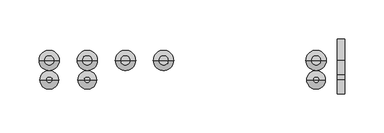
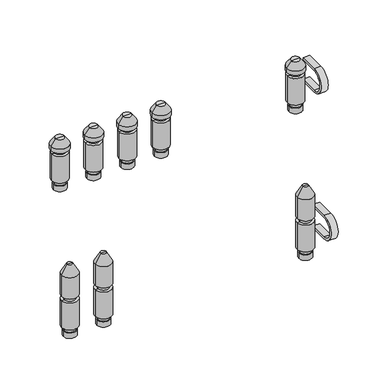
"""IFC4 building model written with IfcOpenShell, lengths in millimetres: valve geometry, PL AT_Manifold_FT-EV : 08 circuits."""

from ifc_helpers import new_model, si_unit, point, frame, frame_2d, origin, origin_2d, place, context, project, spatial, polyline, circle_curve, trimmed, segment, composite_curve, outline, extrude, source, transform, mapped, element, save
from ifc_brep_helpers import plane_surface, cylinder_surface, revolved_surface, advanced_brep


def valve_4e4a3ad7(model_context):
    return source(origin(), model_context, "Body", "SolidModel", [
        advanced_brep(
        [(179.0714286, 25.0, 174.88733), (198.0714286, 25.0, 174.88733), (188.5714286, 25.0, 174.88733), (179.0714286, 25.0, 182.9630354), (198.0714286, 25.0, 182.9630354), (180.5714286, 25.0, 182.9630354), (196.5714286, 25.0, 182.9630354), (180.5714286, 25.0, 189.669747), (196.5714286, 25.0, 189.669747), (176.5714286, 25.0, 189.669747), (200.5714286, 25.0, 189.669747), (176.5714286, 25.0, 230.330253), (200.5714286, 25.0, 230.330253), (180.5714286, 25.0, 230.330253), (196.5714286, 25.0, 230.330253), (180.5714286, 25.0, 236.0474786), (196.5714286, 25.0, 236.0474786), (175.5714286, 25.0, 236.0474786), (201.5714286, 25.0, 236.0474786), (175.5714286, 25.0, 242.337955), (201.5714286, 25.0, 242.337955), (182.2266064, 25.0, 251.842534), (194.9162507, 25.0, 251.842534), (188.5714286, 25.0, 251.842534)],
        [
            (0, 1, circle_curve(frame((188.5714286, 25.0, 174.88733), z_axis=(0.0, 0.0, -1.0), x_axis=(1.0, 0.0, 0.0)), 9.5)),
            (1, 2),
            (2, 0),
            (1, 0, circle_curve(frame((188.5714286, 25.0, 174.88733), z_axis=(0.0, 0.0, -1.0), x_axis=(1.0, 0.0, 0.0)), 9.5)),
            (3, 4, circle_curve(frame((188.5714286, 25.0, 182.9630354), z_axis=(0.0, 0.0, -1.0), x_axis=(1.0, 0.0, 0.0)), 9.5)),
            (4, 1),
            (0, 3),
            (4, 3, circle_curve(frame((188.5714286, 25.0, 182.9630354), z_axis=(0.0, 0.0, -1.0), x_axis=(1.0, 0.0, 0.0)), 9.5)),
            (5, 6, circle_curve(frame((188.5714286, 25.0, 182.9630354), z_axis=(0.0, 0.0, -1.0), x_axis=(1.0, 0.0, 0.0)), 8.0)),
            (6, 4),
            (3, 5),
            (6, 5, circle_curve(frame((188.5714286, 25.0, 182.9630354), z_axis=(0.0, 0.0, -1.0), x_axis=(1.0, 0.0, 0.0)), 8.0)),
            (7, 8, circle_curve(frame((188.5714286, 25.0, 189.669747), z_axis=(0.0, 0.0, -1.0), x_axis=(1.0, 0.0, 0.0)), 8.0)),
            (8, 6),
            (5, 7),
            (8, 7, circle_curve(frame((188.5714286, 25.0, 189.669747), z_axis=(0.0, 0.0, -1.0), x_axis=(1.0, 0.0, 0.0)), 8.0)),
            (9, 10, circle_curve(frame((188.5714286, 25.0, 189.669747), z_axis=(0.0, 0.0, -1.0), x_axis=(1.0, 0.0, 0.0)), 12.0)),
            (10, 8),
            (7, 9),
            (10, 9, circle_curve(frame((188.5714286, 25.0, 189.669747), z_axis=(0.0, 0.0, -1.0), x_axis=(1.0, 0.0, 0.0)), 12.0)),
            (11, 12, circle_curve(frame((188.5714286, 25.0, 230.330253), z_axis=(0.0, 0.0, -1.0), x_axis=(1.0, 0.0, 0.0)), 12.0)),
            (12, 10),
            (9, 11),
            (12, 11, circle_curve(frame((188.5714286, 25.0, 230.330253), z_axis=(0.0, 0.0, -1.0), x_axis=(1.0, 0.0, 0.0)), 12.0)),
            (13, 14, circle_curve(frame((188.5714286, 25.0, 230.330253), z_axis=(0.0, 0.0, -1.0), x_axis=(1.0, 0.0, 0.0)), 8.0)),
            (14, 12),
            (11, 13),
            (14, 13, circle_curve(frame((188.5714286, 25.0, 230.330253), z_axis=(0.0, 0.0, -1.0), x_axis=(1.0, 0.0, 0.0)), 8.0)),
            (15, 16, circle_curve(frame((188.5714286, 25.0, 236.0474786), z_axis=(0.0, 0.0, -1.0), x_axis=(1.0, 0.0, 0.0)), 8.0)),
            (16, 14),
            (13, 15),
            (16, 15, circle_curve(frame((188.5714286, 25.0, 236.0474786), z_axis=(0.0, 0.0, -1.0), x_axis=(1.0, 0.0, 0.0)), 8.0)),
            (17, 18, circle_curve(frame((188.5714286, 25.0, 236.0474786), z_axis=(0.0, 0.0, -1.0), x_axis=(1.0, 0.0, 0.0)), 13.0)),
            (18, 16),
            (15, 17),
            (18, 17, circle_curve(frame((188.5714286, 25.0, 236.0474786), z_axis=(0.0, 0.0, -1.0), x_axis=(1.0, 0.0, 0.0)), 13.0)),
            (19, 20, circle_curve(frame((188.5714286, 25.0, 242.337955), z_axis=(0.0, 0.0, -1.0), x_axis=(1.0, 0.0, 0.0)), 13.0)),
            (20, 18),
            (17, 19),
            (20, 19, circle_curve(frame((188.5714286, 25.0, 242.337955), z_axis=(0.0, 0.0, -1.0), x_axis=(1.0, 0.0, 0.0)), 13.0)),
            (21, 22, circle_curve(frame((188.5714286, 25.0, 251.842534), z_axis=(0.0, 0.0, -1.0), x_axis=(1.0, 0.0, 0.0)), 6.3448221)),
            (22, 20),
            (19, 21),
            (22, 21, circle_curve(frame((188.5714286, 25.0, 251.842534), z_axis=(0.0, 0.0, -1.0), x_axis=(1.0, 0.0, 0.0)), 6.3448221)),
            (23, 22),
            (21, 23),
        ],
        [
            plane_surface(frame((188.5714286, 25.0, 174.88733), z_axis=(0.0, 0.0, -1.0), x_axis=(1.0, 0.0, 0.0))),
            cylinder_surface(frame((188.5714286, 25.0, 247.7026565), z_axis=(0.0, 0.0, 1.0), x_axis=(1.0, 0.0, 0.0)), 9.5),
            plane_surface(frame((188.5714286, 25.0, 182.9630354), z_axis=(0.0, 0.0, 1.0), x_axis=(1.0, 0.0, 0.0))),
            cylinder_surface(frame((188.5714286, 25.0, 247.7026565), z_axis=(0.0, 0.0, 1.0), x_axis=(1.0, 0.0, 0.0)), 8.0),
            plane_surface(frame((188.5714286, 25.0, 189.669747), z_axis=(0.0, 0.0, -1.0), x_axis=(1.0, 0.0, 0.0))),
            cylinder_surface(frame((188.5714286, 25.0, 247.7026565), z_axis=(0.0, 0.0, 1.0), x_axis=(1.0, 0.0, 0.0)), 12.0),
            plane_surface(frame((188.5714286, 25.0, 230.330253), z_axis=(0.0, 0.0, 1.0), x_axis=(1.0, 0.0, 0.0))),
            plane_surface(frame((188.5714286, 25.0, 236.0474786), z_axis=(0.0, 0.0, -1.0), x_axis=(1.0, 0.0, 0.0))),
            cylinder_surface(frame((188.5714286, 25.0, 247.7026565), z_axis=(0.0, 0.0, 1.0), x_axis=(1.0, 0.0, 0.0)), 13.0),
            revolved_surface(polyline([(201.5714286, 25.0, 242.337955), (194.9162507, 25.0, 251.842534)]), (188.5714286, 25.0, 247.7026565), (0.0, 0.0, 1.0)),
            plane_surface(frame((188.5714286, 25.0, 251.842534), z_axis=(0.0, 0.0, 1.0), x_axis=(1.0, 0.0, 0.0))),
        ],
        [
            (0, [[1, 2, 3]]),
            (0, [[4, -3, -2]]),
            (1, [[5, 6, -1, 7]]),
            (1, [[8, -7, -4, -6]]),
            (2, [[9, 10, -5, 11]]),
            (2, [[12, -11, -8, -10]]),
            (3, [[13, 14, -9, 15]]),
            (3, [[16, -15, -12, -14]]),
            (4, [[17, 18, -13, 19]]),
            (4, [[20, -19, -16, -18]]),
            (5, [[21, 22, -17, 23]]),
            (5, [[24, -23, -20, -22]]),
            (6, [[25, 26, -21, 27]]),
            (6, [[28, -27, -24, -26]]),
            (3, [[29, 30, -25, 31]]),
            (3, [[32, -31, -28, -30]]),
            (7, [[33, 34, -29, 35]]),
            (7, [[36, -35, -32, -34]]),
            (8, [[37, 38, -33, 39]]),
            (8, [[40, -39, -36, -38]]),
            (9, [[41, 42, -37, 43]]),
            (9, [[44, -43, -40, -42]]),
            (10, [[45, -41, 46]]),
            (10, [[-46, -44, -45]]),
        ],
    ),
        advanced_brep(
        [(130.2142857, 25.0, 174.88733), (149.2142857, 25.0, 174.88733), (139.7142857, 25.0, 174.88733), (130.2142857, 25.0, 182.9630354), (149.2142857, 25.0, 182.9630354), (131.7142857, 25.0, 182.9630354), (147.7142857, 25.0, 182.9630354), (131.7142857, 25.0, 189.669747), (147.7142857, 25.0, 189.669747), (127.7142857, 25.0, 189.669747), (151.7142857, 25.0, 189.669747), (127.7142857, 25.0, 230.330253), (151.7142857, 25.0, 230.330253), (131.7142857, 25.0, 230.330253), (147.7142857, 25.0, 230.330253), (131.7142857, 25.0, 236.0474786), (147.7142857, 25.0, 236.0474786), (126.7142857, 25.0, 236.0474786), (152.7142857, 25.0, 236.0474786), (126.7142857, 25.0, 242.337955), (152.7142857, 25.0, 242.337955), (133.3694636, 25.0, 251.842534), (146.0591078, 25.0, 251.842534), (139.7142857, 25.0, 251.842534)],
        [
            (0, 1, circle_curve(frame((139.7142857, 25.0, 174.88733), z_axis=(0.0, 0.0, -1.0), x_axis=(1.0, 0.0, 0.0)), 9.5)),
            (1, 2),
            (2, 0),
            (1, 0, circle_curve(frame((139.7142857, 25.0, 174.88733), z_axis=(0.0, 0.0, -1.0), x_axis=(1.0, 0.0, 0.0)), 9.5)),
            (3, 4, circle_curve(frame((139.7142857, 25.0, 182.9630354), z_axis=(0.0, 0.0, -1.0), x_axis=(1.0, 0.0, 0.0)), 9.5)),
            (4, 1),
            (0, 3),
            (4, 3, circle_curve(frame((139.7142857, 25.0, 182.9630354), z_axis=(0.0, 0.0, -1.0), x_axis=(1.0, 0.0, 0.0)), 9.5)),
            (5, 6, circle_curve(frame((139.7142857, 25.0, 182.9630354), z_axis=(0.0, 0.0, -1.0), x_axis=(1.0, 0.0, 0.0)), 8.0)),
            (6, 4),
            (3, 5),
            (6, 5, circle_curve(frame((139.7142857, 25.0, 182.9630354), z_axis=(0.0, 0.0, -1.0), x_axis=(1.0, 0.0, 0.0)), 8.0)),
            (7, 8, circle_curve(frame((139.7142857, 25.0, 189.669747), z_axis=(0.0, 0.0, -1.0), x_axis=(1.0, 0.0, 0.0)), 8.0)),
            (8, 6),
            (5, 7),
            (8, 7, circle_curve(frame((139.7142857, 25.0, 189.669747), z_axis=(0.0, 0.0, -1.0), x_axis=(1.0, 0.0, 0.0)), 8.0)),
            (9, 10, circle_curve(frame((139.7142857, 25.0, 189.669747), z_axis=(0.0, 0.0, -1.0), x_axis=(1.0, 0.0, 0.0)), 12.0)),
            (10, 8),
            (7, 9),
            (10, 9, circle_curve(frame((139.7142857, 25.0, 189.669747), z_axis=(0.0, 0.0, -1.0), x_axis=(1.0, 0.0, 0.0)), 12.0)),
            (11, 12, circle_curve(frame((139.7142857, 25.0, 230.330253), z_axis=(0.0, 0.0, -1.0), x_axis=(1.0, 0.0, 0.0)), 12.0)),
            (12, 10),
            (9, 11),
            (12, 11, circle_curve(frame((139.7142857, 25.0, 230.330253), z_axis=(0.0, 0.0, -1.0), x_axis=(1.0, 0.0, 0.0)), 12.0)),
            (13, 14, circle_curve(frame((139.7142857, 25.0, 230.330253), z_axis=(0.0, 0.0, -1.0), x_axis=(1.0, 0.0, 0.0)), 8.0)),
            (14, 12),
            (11, 13),
            (14, 13, circle_curve(frame((139.7142857, 25.0, 230.330253), z_axis=(0.0, 0.0, -1.0), x_axis=(1.0, 0.0, 0.0)), 8.0)),
            (15, 16, circle_curve(frame((139.7142857, 25.0, 236.0474786), z_axis=(0.0, 0.0, -1.0), x_axis=(1.0, 0.0, 0.0)), 8.0)),
            (16, 14),
            (13, 15),
            (16, 15, circle_curve(frame((139.7142857, 25.0, 236.0474786), z_axis=(0.0, 0.0, -1.0), x_axis=(1.0, 0.0, 0.0)), 8.0)),
            (17, 18, circle_curve(frame((139.7142857, 25.0, 236.0474786), z_axis=(0.0, 0.0, -1.0), x_axis=(1.0, 0.0, 0.0)), 13.0)),
            (18, 16),
            (15, 17),
            (18, 17, circle_curve(frame((139.7142857, 25.0, 236.0474786), z_axis=(0.0, 0.0, -1.0), x_axis=(1.0, 0.0, 0.0)), 13.0)),
            (19, 20, circle_curve(frame((139.7142857, 25.0, 242.337955), z_axis=(0.0, 0.0, -1.0), x_axis=(1.0, 0.0, 0.0)), 13.0)),
            (20, 18),
            (17, 19),
            (20, 19, circle_curve(frame((139.7142857, 25.0, 242.337955), z_axis=(0.0, 0.0, -1.0), x_axis=(1.0, 0.0, 0.0)), 13.0)),
            (21, 22, circle_curve(frame((139.7142857, 25.0, 251.842534), z_axis=(0.0, 0.0, -1.0), x_axis=(1.0, 0.0, 0.0)), 6.3448221)),
            (22, 20),
            (19, 21),
            (22, 21, circle_curve(frame((139.7142857, 25.0, 251.842534), z_axis=(0.0, 0.0, -1.0), x_axis=(1.0, 0.0, 0.0)), 6.3448221)),
            (23, 22),
            (21, 23),
        ],
        [
            plane_surface(frame((139.7142857, 25.0, 174.88733), z_axis=(0.0, 0.0, -1.0), x_axis=(1.0, 0.0, 0.0))),
            cylinder_surface(frame((139.7142857, 25.0, 247.7026565), z_axis=(0.0, 0.0, 1.0), x_axis=(1.0, 0.0, 0.0)), 9.5),
            plane_surface(frame((139.7142857, 25.0, 182.9630354), z_axis=(0.0, 0.0, 1.0), x_axis=(1.0, 0.0, 0.0))),
            cylinder_surface(frame((139.7142857, 25.0, 247.7026565), z_axis=(0.0, 0.0, 1.0), x_axis=(1.0, 0.0, 0.0)), 8.0),
            plane_surface(frame((139.7142857, 25.0, 189.669747), z_axis=(0.0, 0.0, -1.0), x_axis=(1.0, 0.0, 0.0))),
            cylinder_surface(frame((139.7142857, 25.0, 247.7026565), z_axis=(0.0, 0.0, 1.0), x_axis=(1.0, 0.0, 0.0)), 12.0),
            plane_surface(frame((139.7142857, 25.0, 230.330253), z_axis=(0.0, 0.0, 1.0), x_axis=(1.0, 0.0, 0.0))),
            plane_surface(frame((139.7142857, 25.0, 236.0474786), z_axis=(0.0, 0.0, -1.0), x_axis=(1.0, 0.0, 0.0))),
            cylinder_surface(frame((139.7142857, 25.0, 247.7026565), z_axis=(0.0, 0.0, 1.0), x_axis=(1.0, 0.0, 0.0)), 13.0),
            revolved_surface(polyline([(152.7142857, 25.0, 242.337955), (146.0591078, 25.0, 251.842534)]), (139.7142857, 25.0, 247.7026565), (0.0, 0.0, 1.0)),
            plane_surface(frame((139.7142857, 25.0, 251.842534), z_axis=(0.0, 0.0, 1.0), x_axis=(1.0, 0.0, 0.0))),
        ],
        [
            (0, [[1, 2, 3]]),
            (0, [[4, -3, -2]]),
            (1, [[5, 6, -1, 7]]),
            (1, [[8, -7, -4, -6]]),
            (2, [[9, 10, -5, 11]]),
            (2, [[12, -11, -8, -10]]),
            (3, [[13, 14, -9, 15]]),
            (3, [[16, -15, -12, -14]]),
            (4, [[17, 18, -13, 19]]),
            (4, [[20, -19, -16, -18]]),
            (5, [[21, 22, -17, 23]]),
            (5, [[24, -23, -20, -22]]),
            (6, [[25, 26, -21, 27]]),
            (6, [[28, -27, -24, -26]]),
            (3, [[29, 30, -25, 31]]),
            (3, [[32, -31, -28, -30]]),
            (7, [[33, 34, -29, 35]]),
            (7, [[36, -35, -32, -34]]),
            (8, [[37, 38, -33, 39]]),
            (8, [[40, -39, -36, -38]]),
            (9, [[41, 42, -37, 43]]),
            (9, [[44, -43, -40, -42]]),
            (10, [[45, -41, 46]]),
            (10, [[-46, -44, -45]]),
        ],
    ),
        advanced_brep(
        [(81.3571429, 0.0, -35.11267), (100.3571429, 0.0, -35.11267), (90.8571429, 0.0, -35.11267), (81.3571429, 0.0, -27.0369646), (100.3571429, 0.0, -27.0369646), (82.8571429, 0.0, -27.0369646), (98.8571429, 0.0, -27.0369646), (82.8571429, 0.0, -20.330253), (98.8571429, 0.0, -20.330253), (78.8571429, 0.0, -20.330253), (102.8571429, 0.0, -20.330253), (78.8571429, 0.0, 20.330253), (102.8571429, 0.0, 20.330253), (82.8571429, 0.0, 20.330253), (98.8571429, 0.0, 20.330253), (82.8571429, 0.0, 27.0474786), (98.8571429, 0.0, 27.0474786), (78.8571429, 0.0, 27.0474786), (102.8571429, 0.0, 27.0474786), (78.8571429, 0.0, 59.4084325), (102.8571429, 0.0, 59.4084325), (86.8571429, 0.0, 73.264839), (94.8571429, 0.0, 73.264839), (90.8571429, 0.0, 73.264839)],
        [
            (0, 1, circle_curve(frame((90.8571429, 0.0, -35.11267), z_axis=(0.0, 0.0, -1.0), x_axis=(1.0, 0.0, 0.0)), 9.5)),
            (1, 2),
            (2, 0),
            (1, 0, circle_curve(frame((90.8571429, 0.0, -35.11267), z_axis=(0.0, 0.0, -1.0), x_axis=(1.0, 0.0, 0.0)), 9.5)),
            (3, 4, circle_curve(frame((90.8571429, 0.0, -27.0369646), z_axis=(0.0, 0.0, -1.0), x_axis=(1.0, 0.0, 0.0)), 9.5)),
            (4, 1),
            (0, 3),
            (4, 3, circle_curve(frame((90.8571429, 0.0, -27.0369646), z_axis=(0.0, 0.0, -1.0), x_axis=(1.0, 0.0, 0.0)), 9.5)),
            (5, 6, circle_curve(frame((90.8571429, 0.0, -27.0369646), z_axis=(0.0, 0.0, -1.0), x_axis=(1.0, 0.0, 0.0)), 8.0)),
            (6, 4),
            (3, 5),
            (6, 5, circle_curve(frame((90.8571429, 0.0, -27.0369646), z_axis=(0.0, 0.0, -1.0), x_axis=(1.0, 0.0, 0.0)), 8.0)),
            (7, 8, circle_curve(frame((90.8571429, 0.0, -20.330253), z_axis=(0.0, 0.0, -1.0), x_axis=(1.0, 0.0, 0.0)), 8.0)),
            (8, 6),
            (5, 7),
            (8, 7, circle_curve(frame((90.8571429, 0.0, -20.330253), z_axis=(0.0, 0.0, -1.0), x_axis=(1.0, 0.0, 0.0)), 8.0)),
            (9, 10, circle_curve(frame((90.8571429, 0.0, -20.330253), z_axis=(0.0, 0.0, -1.0), x_axis=(1.0, 0.0, 0.0)), 12.0)),
            (10, 8),
            (7, 9),
            (10, 9, circle_curve(frame((90.8571429, 0.0, -20.330253), z_axis=(0.0, 0.0, -1.0), x_axis=(1.0, 0.0, 0.0)), 12.0)),
            (11, 12, circle_curve(frame((90.8571429, 0.0, 20.330253), z_axis=(0.0, 0.0, -1.0), x_axis=(1.0, 0.0, 0.0)), 12.0)),
            (12, 10),
            (9, 11),
            (12, 11, circle_curve(frame((90.8571429, 0.0, 20.330253), z_axis=(0.0, 0.0, -1.0), x_axis=(1.0, 0.0, 0.0)), 12.0)),
            (13, 14, circle_curve(frame((90.8571429, 0.0, 20.330253), z_axis=(0.0, 0.0, -1.0), x_axis=(1.0, 0.0, 0.0)), 8.0)),
            (14, 12),
            (11, 13),
            (14, 13, circle_curve(frame((90.8571429, 0.0, 20.330253), z_axis=(0.0, 0.0, -1.0), x_axis=(1.0, 0.0, 0.0)), 8.0)),
            (15, 16, circle_curve(frame((90.8571429, 0.0, 27.0474786), z_axis=(0.0, 0.0, -1.0), x_axis=(1.0, 0.0, 0.0)), 8.0)),
            (16, 14),
            (13, 15),
            (16, 15, circle_curve(frame((90.8571429, 0.0, 27.0474786), z_axis=(0.0, 0.0, -1.0), x_axis=(1.0, 0.0, 0.0)), 8.0)),
            (17, 18, circle_curve(frame((90.8571429, 0.0, 27.0474786), z_axis=(0.0, 0.0, -1.0), x_axis=(1.0, 0.0, 0.0)), 12.0)),
            (18, 16),
            (15, 17),
            (18, 17, circle_curve(frame((90.8571429, 0.0, 27.0474786), z_axis=(0.0, 0.0, -1.0), x_axis=(1.0, 0.0, 0.0)), 12.0)),
            (19, 20, circle_curve(frame((90.8571429, 0.0, 59.4084325), z_axis=(0.0, 0.0, -1.0), x_axis=(1.0, 0.0, 0.0)), 12.0)),
            (20, 18),
            (17, 19),
            (20, 19, circle_curve(frame((90.8571429, 0.0, 59.4084325), z_axis=(0.0, 0.0, -1.0), x_axis=(1.0, 0.0, 0.0)), 12.0)),
            (21, 22, circle_curve(frame((90.8571429, 0.0, 73.264839), z_axis=(0.0, 0.0, -1.0), x_axis=(1.0, 0.0, 0.0)), 4.0)),
            (22, 20),
            (19, 21),
            (22, 21, circle_curve(frame((90.8571429, 0.0, 73.264839), z_axis=(0.0, 0.0, -1.0), x_axis=(1.0, 0.0, 0.0)), 4.0)),
            (23, 22),
            (21, 23),
        ],
        [
            plane_surface(frame((90.8571429, 0.0, -35.11267), z_axis=(0.0, 0.0, -1.0), x_axis=(1.0, 0.0, 0.0))),
            cylinder_surface(frame((90.8571429, 0.0, 58.264839), z_axis=(0.0, 0.0, 1.0), x_axis=(1.0, 0.0, 0.0)), 9.5),
            plane_surface(frame((90.8571429, 0.0, -27.0369646), z_axis=(0.0, 0.0, 1.0), x_axis=(1.0, 0.0, 0.0))),
            cylinder_surface(frame((90.8571429, 0.0, 58.264839), z_axis=(0.0, 0.0, 1.0), x_axis=(1.0, 0.0, 0.0)), 8.0),
            plane_surface(frame((90.8571429, 0.0, -20.330253), z_axis=(0.0, 0.0, -1.0), x_axis=(1.0, 0.0, 0.0))),
            cylinder_surface(frame((90.8571429, 0.0, 58.264839), z_axis=(0.0, 0.0, 1.0), x_axis=(1.0, 0.0, 0.0)), 12.0),
            plane_surface(frame((90.8571429, 0.0, 20.330253), z_axis=(0.0, 0.0, 1.0), x_axis=(1.0, 0.0, 0.0))),
            plane_surface(frame((90.8571429, 0.0, 27.0474786), z_axis=(0.0, 0.0, -1.0), x_axis=(1.0, 0.0, 0.0))),
            revolved_surface(polyline([(102.8571429, 0.0, 59.4084325), (94.8571429, 0.0, 73.264839)]), (90.8571429, 0.0, 58.264839), (0.0, 0.0, 1.0)),
            plane_surface(frame((90.8571429, 0.0, 73.264839), z_axis=(0.0, 0.0, 1.0), x_axis=(1.0, 0.0, 0.0))),
        ],
        [
            (0, [[1, 2, 3]]),
            (0, [[4, -3, -2]]),
            (1, [[5, 6, -1, 7]]),
            (1, [[8, -7, -4, -6]]),
            (2, [[9, 10, -5, 11]]),
            (2, [[12, -11, -8, -10]]),
            (3, [[13, 14, -9, 15]]),
            (3, [[16, -15, -12, -14]]),
            (4, [[17, 18, -13, 19]]),
            (4, [[20, -19, -16, -18]]),
            (5, [[21, 22, -17, 23]]),
            (5, [[24, -23, -20, -22]]),
            (6, [[25, 26, -21, 27]]),
            (6, [[28, -27, -24, -26]]),
            (3, [[29, 30, -25, 31]]),
            (3, [[32, -31, -28, -30]]),
            (7, [[33, 34, -29, 35]]),
            (7, [[36, -35, -32, -34]]),
            (5, [[37, 38, -33, 39]]),
            (5, [[40, -39, -36, -38]]),
            (8, [[41, 42, -37, 43]]),
            (8, [[44, -43, -40, -42]]),
            (9, [[45, -41, 46]]),
            (9, [[-46, -44, -45]]),
        ],
    ),
        advanced_brep(
        [(81.3571429, 25.0, 174.88733), (100.3571429, 25.0, 174.88733), (90.8571429, 25.0, 174.88733), (81.3571429, 25.0, 182.9630354), (100.3571429, 25.0, 182.9630354), (82.8571429, 25.0, 182.9630354), (98.8571429, 25.0, 182.9630354), (82.8571429, 25.0, 189.669747), (98.8571429, 25.0, 189.669747), (78.8571429, 25.0, 189.669747), (102.8571429, 25.0, 189.669747), (78.8571429, 25.0, 230.330253), (102.8571429, 25.0, 230.330253), (82.8571429, 25.0, 230.330253), (98.8571429, 25.0, 230.330253), (82.8571429, 25.0, 236.0474786), (98.8571429, 25.0, 236.0474786), (77.8571429, 25.0, 236.0474786), (103.8571429, 25.0, 236.0474786), (77.8571429, 25.0, 242.337955), (103.8571429, 25.0, 242.337955), (84.5123207, 25.0, 251.842534), (97.201965, 25.0, 251.842534), (90.8571429, 25.0, 251.842534)],
        [
            (0, 1, circle_curve(frame((90.8571429, 25.0, 174.88733), z_axis=(0.0, 0.0, -1.0), x_axis=(1.0, 0.0, 0.0)), 9.5)),
            (1, 2),
            (2, 0),
            (1, 0, circle_curve(frame((90.8571429, 25.0, 174.88733), z_axis=(0.0, 0.0, -1.0), x_axis=(1.0, 0.0, 0.0)), 9.5)),
            (3, 4, circle_curve(frame((90.8571429, 25.0, 182.9630354), z_axis=(0.0, 0.0, -1.0), x_axis=(1.0, 0.0, 0.0)), 9.5)),
            (4, 1),
            (0, 3),
            (4, 3, circle_curve(frame((90.8571429, 25.0, 182.9630354), z_axis=(0.0, 0.0, -1.0), x_axis=(1.0, 0.0, 0.0)), 9.5)),
            (5, 6, circle_curve(frame((90.8571429, 25.0, 182.9630354), z_axis=(0.0, 0.0, -1.0), x_axis=(1.0, 0.0, 0.0)), 8.0)),
            (6, 4),
            (3, 5),
            (6, 5, circle_curve(frame((90.8571429, 25.0, 182.9630354), z_axis=(0.0, 0.0, -1.0), x_axis=(1.0, 0.0, 0.0)), 8.0)),
            (7, 8, circle_curve(frame((90.8571429, 25.0, 189.669747), z_axis=(0.0, 0.0, -1.0), x_axis=(1.0, 0.0, 0.0)), 8.0)),
            (8, 6),
            (5, 7),
            (8, 7, circle_curve(frame((90.8571429, 25.0, 189.669747), z_axis=(0.0, 0.0, -1.0), x_axis=(1.0, 0.0, 0.0)), 8.0)),
            (9, 10, circle_curve(frame((90.8571429, 25.0, 189.669747), z_axis=(0.0, 0.0, -1.0), x_axis=(1.0, 0.0, 0.0)), 12.0)),
            (10, 8),
            (7, 9),
            (10, 9, circle_curve(frame((90.8571429, 25.0, 189.669747), z_axis=(0.0, 0.0, -1.0), x_axis=(1.0, 0.0, 0.0)), 12.0)),
            (11, 12, circle_curve(frame((90.8571429, 25.0, 230.330253), z_axis=(0.0, 0.0, -1.0), x_axis=(1.0, 0.0, 0.0)), 12.0)),
            (12, 10),
            (9, 11),
            (12, 11, circle_curve(frame((90.8571429, 25.0, 230.330253), z_axis=(0.0, 0.0, -1.0), x_axis=(1.0, 0.0, 0.0)), 12.0)),
            (13, 14, circle_curve(frame((90.8571429, 25.0, 230.330253), z_axis=(0.0, 0.0, -1.0), x_axis=(1.0, 0.0, 0.0)), 8.0)),
            (14, 12),
            (11, 13),
            (14, 13, circle_curve(frame((90.8571429, 25.0, 230.330253), z_axis=(0.0, 0.0, -1.0), x_axis=(1.0, 0.0, 0.0)), 8.0)),
            (15, 16, circle_curve(frame((90.8571429, 25.0, 236.0474786), z_axis=(0.0, 0.0, -1.0), x_axis=(1.0, 0.0, 0.0)), 8.0)),
            (16, 14),
            (13, 15),
            (16, 15, circle_curve(frame((90.8571429, 25.0, 236.0474786), z_axis=(0.0, 0.0, -1.0), x_axis=(1.0, 0.0, 0.0)), 8.0)),
            (17, 18, circle_curve(frame((90.8571429, 25.0, 236.0474786), z_axis=(0.0, 0.0, -1.0), x_axis=(1.0, 0.0, 0.0)), 13.0)),
            (18, 16),
            (15, 17),
            (18, 17, circle_curve(frame((90.8571429, 25.0, 236.0474786), z_axis=(0.0, 0.0, -1.0), x_axis=(1.0, 0.0, 0.0)), 13.0)),
            (19, 20, circle_curve(frame((90.8571429, 25.0, 242.337955), z_axis=(0.0, 0.0, -1.0), x_axis=(1.0, 0.0, 0.0)), 13.0)),
            (20, 18),
            (17, 19),
            (20, 19, circle_curve(frame((90.8571429, 25.0, 242.337955), z_axis=(0.0, 0.0, -1.0), x_axis=(1.0, 0.0, 0.0)), 13.0)),
            (21, 22, circle_curve(frame((90.8571429, 25.0, 251.842534), z_axis=(0.0, 0.0, -1.0), x_axis=(1.0, 0.0, 0.0)), 6.3448221)),
            (22, 20),
            (19, 21),
            (22, 21, circle_curve(frame((90.8571429, 25.0, 251.842534), z_axis=(0.0, 0.0, -1.0), x_axis=(1.0, 0.0, 0.0)), 6.3448221)),
            (23, 22),
            (21, 23),
        ],
        [
            plane_surface(frame((90.8571429, 25.0, 174.88733), z_axis=(0.0, 0.0, -1.0), x_axis=(1.0, 0.0, 0.0))),
            cylinder_surface(frame((90.8571429, 25.0, 247.7026565), z_axis=(0.0, 0.0, 1.0), x_axis=(1.0, 0.0, 0.0)), 9.5),
            plane_surface(frame((90.8571429, 25.0, 182.9630354), z_axis=(0.0, 0.0, 1.0), x_axis=(1.0, 0.0, 0.0))),
            cylinder_surface(frame((90.8571429, 25.0, 247.7026565), z_axis=(0.0, 0.0, 1.0), x_axis=(1.0, 0.0, 0.0)), 8.0),
            plane_surface(frame((90.8571429, 25.0, 189.669747), z_axis=(0.0, 0.0, -1.0), x_axis=(1.0, 0.0, 0.0))),
            cylinder_surface(frame((90.8571429, 25.0, 247.7026565), z_axis=(0.0, 0.0, 1.0), x_axis=(1.0, 0.0, 0.0)), 12.0),
            plane_surface(frame((90.8571429, 25.0, 230.330253), z_axis=(0.0, 0.0, 1.0), x_axis=(1.0, 0.0, 0.0))),
            plane_surface(frame((90.8571429, 25.0, 236.0474786), z_axis=(0.0, 0.0, -1.0), x_axis=(1.0, 0.0, 0.0))),
            cylinder_surface(frame((90.8571429, 25.0, 247.7026565), z_axis=(0.0, 0.0, 1.0), x_axis=(1.0, 0.0, 0.0)), 13.0),
            revolved_surface(polyline([(103.8571429, 25.0, 242.337955), (97.201965, 25.0, 251.842534)]), (90.8571429, 25.0, 247.7026565), (0.0, 0.0, 1.0)),
            plane_surface(frame((90.8571429, 25.0, 251.842534), z_axis=(0.0, 0.0, 1.0), x_axis=(1.0, 0.0, 0.0))),
        ],
        [
            (0, [[1, 2, 3]]),
            (0, [[4, -3, -2]]),
            (1, [[5, 6, -1, 7]]),
            (1, [[8, -7, -4, -6]]),
            (2, [[9, 10, -5, 11]]),
            (2, [[12, -11, -8, -10]]),
            (3, [[13, 14, -9, 15]]),
            (3, [[16, -15, -12, -14]]),
            (4, [[17, 18, -13, 19]]),
            (4, [[20, -19, -16, -18]]),
            (5, [[21, 22, -17, 23]]),
            (5, [[24, -23, -20, -22]]),
            (6, [[25, 26, -21, 27]]),
            (6, [[28, -27, -24, -26]]),
            (3, [[29, 30, -25, 31]]),
            (3, [[32, -31, -28, -30]]),
            (7, [[33, 34, -29, 35]]),
            (7, [[36, -35, -32, -34]]),
            (8, [[37, 38, -33, 39]]),
            (8, [[40, -39, -36, -38]]),
            (9, [[41, 42, -37, 43]]),
            (9, [[44, -43, -40, -42]]),
            (10, [[45, -41, 46]]),
            (10, [[-46, -44, -45]]),
        ],
    ),
        advanced_brep(
        [(374.5, 0.0, -35.11267), (393.5, 0.0, -35.11267), (384.0, 0.0, -35.11267), (374.5, 0.0, -27.0369646), (393.5, 0.0, -27.0369646), (376.0, 0.0, -27.0369646), (392.0, 0.0, -27.0369646), (376.0, 0.0, -20.330253), (392.0, 0.0, -20.330253), (372.0, 0.0, -20.330253), (396.0, 0.0, -20.330253), (372.0, 0.0, 20.330253), (396.0, 0.0, 20.330253), (376.0, 0.0, 20.330253), (392.0, 0.0, 20.330253), (376.0, 0.0, 27.0474786), (392.0, 0.0, 27.0474786), (372.0, 0.0, 27.0474786), (396.0, 0.0, 27.0474786), (372.0, 0.0, 59.4084325), (396.0, 0.0, 59.4084325), (380.0, 0.0, 73.264839), (388.0, 0.0, 73.264839), (384.0, 0.0, 73.264839)],
        [
            (0, 1, circle_curve(frame((384.0, 0.0, -35.11267), z_axis=(0.0, 0.0, -1.0), x_axis=(1.0, 0.0, 0.0)), 9.5)),
            (1, 2),
            (2, 0),
            (1, 0, circle_curve(frame((384.0, 0.0, -35.11267), z_axis=(0.0, 0.0, -1.0), x_axis=(1.0, 0.0, 0.0)), 9.5)),
            (3, 4, circle_curve(frame((384.0, 0.0, -27.0369646), z_axis=(0.0, 0.0, -1.0), x_axis=(1.0, 0.0, 0.0)), 9.5)),
            (4, 1),
            (0, 3),
            (4, 3, circle_curve(frame((384.0, 0.0, -27.0369646), z_axis=(0.0, 0.0, -1.0), x_axis=(1.0, 0.0, 0.0)), 9.5)),
            (5, 6, circle_curve(frame((384.0, 0.0, -27.0369646), z_axis=(0.0, 0.0, -1.0), x_axis=(1.0, 0.0, 0.0)), 8.0)),
            (6, 4),
            (3, 5),
            (6, 5, circle_curve(frame((384.0, 0.0, -27.0369646), z_axis=(0.0, 0.0, -1.0), x_axis=(1.0, 0.0, 0.0)), 8.0)),
            (7, 8, circle_curve(frame((384.0, 0.0, -20.330253), z_axis=(0.0, 0.0, -1.0), x_axis=(1.0, 0.0, 0.0)), 8.0)),
            (8, 6),
            (5, 7),
            (8, 7, circle_curve(frame((384.0, 0.0, -20.330253), z_axis=(0.0, 0.0, -1.0), x_axis=(1.0, 0.0, 0.0)), 8.0)),
            (9, 10, circle_curve(frame((384.0, 0.0, -20.330253), z_axis=(0.0, 0.0, -1.0), x_axis=(1.0, 0.0, 0.0)), 12.0)),
            (10, 8),
            (7, 9),
            (10, 9, circle_curve(frame((384.0, 0.0, -20.330253), z_axis=(0.0, 0.0, -1.0), x_axis=(1.0, 0.0, 0.0)), 12.0)),
            (11, 12, circle_curve(frame((384.0, 0.0, 20.330253), z_axis=(0.0, 0.0, -1.0), x_axis=(1.0, 0.0, 0.0)), 12.0)),
            (12, 10),
            (9, 11),
            (12, 11, circle_curve(frame((384.0, 0.0, 20.330253), z_axis=(0.0, 0.0, -1.0), x_axis=(1.0, 0.0, 0.0)), 12.0)),
            (13, 14, circle_curve(frame((384.0, 0.0, 20.330253), z_axis=(0.0, 0.0, -1.0), x_axis=(1.0, 0.0, 0.0)), 8.0)),
            (14, 12),
            (11, 13),
            (14, 13, circle_curve(frame((384.0, 0.0, 20.330253), z_axis=(0.0, 0.0, -1.0), x_axis=(1.0, 0.0, 0.0)), 8.0)),
            (15, 16, circle_curve(frame((384.0, 0.0, 27.0474786), z_axis=(0.0, 0.0, -1.0), x_axis=(1.0, 0.0, 0.0)), 8.0)),
            (16, 14),
            (13, 15),
            (16, 15, circle_curve(frame((384.0, 0.0, 27.0474786), z_axis=(0.0, 0.0, -1.0), x_axis=(1.0, 0.0, 0.0)), 8.0)),
            (17, 18, circle_curve(frame((384.0, 0.0, 27.0474786), z_axis=(0.0, 0.0, -1.0), x_axis=(1.0, 0.0, 0.0)), 12.0)),
            (18, 16),
            (15, 17),
            (18, 17, circle_curve(frame((384.0, 0.0, 27.0474786), z_axis=(0.0, 0.0, -1.0), x_axis=(1.0, 0.0, 0.0)), 12.0)),
            (19, 20, circle_curve(frame((384.0, 0.0, 59.4084325), z_axis=(0.0, 0.0, -1.0), x_axis=(1.0, 0.0, 0.0)), 12.0)),
            (20, 18),
            (17, 19),
            (20, 19, circle_curve(frame((384.0, 0.0, 59.4084325), z_axis=(0.0, 0.0, -1.0), x_axis=(1.0, 0.0, 0.0)), 12.0)),
            (21, 22, circle_curve(frame((384.0, 0.0, 73.264839), z_axis=(0.0, 0.0, -1.0), x_axis=(1.0, 0.0, 0.0)), 4.0)),
            (22, 20),
            (19, 21),
            (22, 21, circle_curve(frame((384.0, 0.0, 73.264839), z_axis=(0.0, 0.0, -1.0), x_axis=(1.0, 0.0, 0.0)), 4.0)),
            (23, 22),
            (21, 23),
        ],
        [
            plane_surface(frame((384.0, 0.0, -35.11267), z_axis=(0.0, 0.0, -1.0), x_axis=(1.0, 0.0, 0.0))),
            cylinder_surface(frame((384.0, 0.0, 58.264839), z_axis=(0.0, 0.0, 1.0), x_axis=(1.0, 0.0, 0.0)), 9.5),
            plane_surface(frame((384.0, 0.0, -27.0369646), z_axis=(0.0, 0.0, 1.0), x_axis=(1.0, 0.0, 0.0))),
            cylinder_surface(frame((384.0, 0.0, 58.264839), z_axis=(0.0, 0.0, 1.0), x_axis=(1.0, 0.0, 0.0)), 8.0),
            plane_surface(frame((384.0, 0.0, -20.330253), z_axis=(0.0, 0.0, -1.0), x_axis=(1.0, 0.0, 0.0))),
            cylinder_surface(frame((384.0, 0.0, 58.264839), z_axis=(0.0, 0.0, 1.0), x_axis=(1.0, 0.0, 0.0)), 12.0),
            plane_surface(frame((384.0, 0.0, 20.330253), z_axis=(0.0, 0.0, 1.0), x_axis=(1.0, 0.0, 0.0))),
            plane_surface(frame((384.0, 0.0, 27.0474786), z_axis=(0.0, 0.0, -1.0), x_axis=(1.0, 0.0, 0.0))),
            revolved_surface(polyline([(396.0, 0.0, 59.4084325), (388.0, 0.0, 73.264839)]), (384.0, 0.0, 58.264839), (0.0, 0.0, 1.0)),
            plane_surface(frame((384.0, 0.0, 73.264839), z_axis=(0.0, 0.0, 1.0), x_axis=(1.0, 0.0, 0.0))),
        ],
        [
            (0, [[1, 2, 3]]),
            (0, [[4, -3, -2]]),
            (1, [[5, 6, -1, 7]]),
            (1, [[8, -7, -4, -6]]),
            (2, [[9, 10, -5, 11]]),
            (2, [[12, -11, -8, -10]]),
            (3, [[13, 14, -9, 15]]),
            (3, [[16, -15, -12, -14]]),
            (4, [[17, 18, -13, 19]]),
            (4, [[20, -19, -16, -18]]),
            (5, [[21, 22, -17, 23]]),
            (5, [[24, -23, -20, -22]]),
            (6, [[25, 26, -21, 27]]),
            (6, [[28, -27, -24, -26]]),
            (3, [[29, 30, -25, 31]]),
            (3, [[32, -31, -28, -30]]),
            (7, [[33, 34, -29, 35]]),
            (7, [[36, -35, -32, -34]]),
            (5, [[37, 38, -33, 39]]),
            (5, [[40, -39, -36, -38]]),
            (8, [[41, 42, -37, 43]]),
            (8, [[44, -43, -40, -42]]),
            (9, [[45, -41, 46]]),
            (9, [[-46, -44, -45]]),
        ],
    ),
        advanced_brep(
        [(374.5, 25.0, 174.88733), (393.5, 25.0, 174.88733), (384.0, 25.0, 174.88733), (374.5, 25.0, 182.9630354), (393.5, 25.0, 182.9630354), (376.0, 25.0, 182.9630354), (392.0, 25.0, 182.9630354), (376.0, 25.0, 189.669747), (392.0, 25.0, 189.669747), (372.0, 25.0, 189.669747), (396.0, 25.0, 189.669747), (372.0, 25.0, 230.330253), (396.0, 25.0, 230.330253), (376.0, 25.0, 230.330253), (392.0, 25.0, 230.330253), (376.0, 25.0, 236.0474786), (392.0, 25.0, 236.0474786), (371.0, 25.0, 236.0474786), (397.0, 25.0, 236.0474786), (371.0, 25.0, 242.337955), (397.0, 25.0, 242.337955), (377.6551779, 25.0, 251.842534), (390.3448221, 25.0, 251.842534), (384.0, 25.0, 251.842534)],
        [
            (0, 1, circle_curve(frame((384.0, 25.0, 174.88733), z_axis=(0.0, 0.0, -1.0), x_axis=(1.0, 0.0, 0.0)), 9.5)),
            (1, 2),
            (2, 0),
            (1, 0, circle_curve(frame((384.0, 25.0, 174.88733), z_axis=(0.0, 0.0, -1.0), x_axis=(1.0, 0.0, 0.0)), 9.5)),
            (3, 4, circle_curve(frame((384.0, 25.0, 182.9630354), z_axis=(0.0, 0.0, -1.0), x_axis=(1.0, 0.0, 0.0)), 9.5)),
            (4, 1),
            (0, 3),
            (4, 3, circle_curve(frame((384.0, 25.0, 182.9630354), z_axis=(0.0, 0.0, -1.0), x_axis=(1.0, 0.0, 0.0)), 9.5)),
            (5, 6, circle_curve(frame((384.0, 25.0, 182.9630354), z_axis=(0.0, 0.0, -1.0), x_axis=(1.0, 0.0, 0.0)), 8.0)),
            (6, 4),
            (3, 5),
            (6, 5, circle_curve(frame((384.0, 25.0, 182.9630354), z_axis=(0.0, 0.0, -1.0), x_axis=(1.0, 0.0, 0.0)), 8.0)),
            (7, 8, circle_curve(frame((384.0, 25.0, 189.669747), z_axis=(0.0, 0.0, -1.0), x_axis=(1.0, 0.0, 0.0)), 8.0)),
            (8, 6),
            (5, 7),
            (8, 7, circle_curve(frame((384.0, 25.0, 189.669747), z_axis=(0.0, 0.0, -1.0), x_axis=(1.0, 0.0, 0.0)), 8.0)),
            (9, 10, circle_curve(frame((384.0, 25.0, 189.669747), z_axis=(0.0, 0.0, -1.0), x_axis=(1.0, 0.0, 0.0)), 12.0)),
            (10, 8),
            (7, 9),
            (10, 9, circle_curve(frame((384.0, 25.0, 189.669747), z_axis=(0.0, 0.0, -1.0), x_axis=(1.0, 0.0, 0.0)), 12.0)),
            (11, 12, circle_curve(frame((384.0, 25.0, 230.330253), z_axis=(0.0, 0.0, -1.0), x_axis=(1.0, 0.0, 0.0)), 12.0)),
            (12, 10),
            (9, 11),
            (12, 11, circle_curve(frame((384.0, 25.0, 230.330253), z_axis=(0.0, 0.0, -1.0), x_axis=(1.0, 0.0, 0.0)), 12.0)),
            (13, 14, circle_curve(frame((384.0, 25.0, 230.330253), z_axis=(0.0, 0.0, -1.0), x_axis=(1.0, 0.0, 0.0)), 8.0)),
            (14, 12),
            (11, 13),
            (14, 13, circle_curve(frame((384.0, 25.0, 230.330253), z_axis=(0.0, 0.0, -1.0), x_axis=(1.0, 0.0, 0.0)), 8.0)),
            (15, 16, circle_curve(frame((384.0, 25.0, 236.0474786), z_axis=(0.0, 0.0, -1.0), x_axis=(1.0, 0.0, 0.0)), 8.0)),
            (16, 14),
            (13, 15),
            (16, 15, circle_curve(frame((384.0, 25.0, 236.0474786), z_axis=(0.0, 0.0, -1.0), x_axis=(1.0, 0.0, 0.0)), 8.0)),
            (17, 18, circle_curve(frame((384.0, 25.0, 236.0474786), z_axis=(0.0, 0.0, -1.0), x_axis=(1.0, 0.0, 0.0)), 13.0)),
            (18, 16),
            (15, 17),
            (18, 17, circle_curve(frame((384.0, 25.0, 236.0474786), z_axis=(0.0, 0.0, -1.0), x_axis=(1.0, 0.0, 0.0)), 13.0)),
            (19, 20, circle_curve(frame((384.0, 25.0, 242.337955), z_axis=(0.0, 0.0, -1.0), x_axis=(1.0, 0.0, 0.0)), 13.0)),
            (20, 18),
            (17, 19),
            (20, 19, circle_curve(frame((384.0, 25.0, 242.337955), z_axis=(0.0, 0.0, -1.0), x_axis=(1.0, 0.0, 0.0)), 13.0)),
            (21, 22, circle_curve(frame((384.0, 25.0, 251.842534), z_axis=(0.0, 0.0, -1.0), x_axis=(1.0, 0.0, 0.0)), 6.3448221)),
            (22, 20),
            (19, 21),
            (22, 21, circle_curve(frame((384.0, 25.0, 251.842534), z_axis=(0.0, 0.0, -1.0), x_axis=(1.0, 0.0, 0.0)), 6.3448221)),
            (23, 22),
            (21, 23),
        ],
        [
            plane_surface(frame((384.0, 25.0, 174.88733), z_axis=(0.0, 0.0, -1.0), x_axis=(1.0, 0.0, 0.0))),
            cylinder_surface(frame((384.0, 25.0, 247.7026565), z_axis=(0.0, 0.0, 1.0), x_axis=(1.0, 0.0, 0.0)), 9.5),
            plane_surface(frame((384.0, 25.0, 182.9630354), z_axis=(0.0, 0.0, 1.0), x_axis=(1.0, 0.0, 0.0))),
            cylinder_surface(frame((384.0, 25.0, 247.7026565), z_axis=(0.0, 0.0, 1.0), x_axis=(1.0, 0.0, 0.0)), 8.0),
            plane_surface(frame((384.0, 25.0, 189.669747), z_axis=(0.0, 0.0, -1.0), x_axis=(1.0, 0.0, 0.0))),
            cylinder_surface(frame((384.0, 25.0, 247.7026565), z_axis=(0.0, 0.0, 1.0), x_axis=(1.0, 0.0, 0.0)), 12.0),
            plane_surface(frame((384.0, 25.0, 230.330253), z_axis=(0.0, 0.0, 1.0), x_axis=(1.0, 0.0, 0.0))),
            plane_surface(frame((384.0, 25.0, 236.0474786), z_axis=(0.0, 0.0, -1.0), x_axis=(1.0, 0.0, 0.0))),
            cylinder_surface(frame((384.0, 25.0, 247.7026565), z_axis=(0.0, 0.0, 1.0), x_axis=(1.0, 0.0, 0.0)), 13.0),
            revolved_surface(polyline([(397.0, 25.0, 242.337955), (390.3448221, 25.0, 251.842534)]), (384.0, 25.0, 247.7026565), (0.0, 0.0, 1.0)),
            plane_surface(frame((384.0, 25.0, 251.842534), z_axis=(0.0, 0.0, 1.0), x_axis=(1.0, 0.0, 0.0))),
        ],
        [
            (0, [[1, 2, 3]]),
            (0, [[4, -3, -2]]),
            (1, [[5, 6, -1, 7]]),
            (1, [[8, -7, -4, -6]]),
            (2, [[9, 10, -5, 11]]),
            (2, [[12, -11, -8, -10]]),
            (3, [[13, 14, -9, 15]]),
            (3, [[16, -15, -12, -14]]),
            (4, [[17, 18, -13, 19]]),
            (4, [[20, -19, -16, -18]]),
            (5, [[21, 22, -17, 23]]),
            (5, [[24, -23, -20, -22]]),
            (6, [[25, 26, -21, 27]]),
            (6, [[28, -27, -24, -26]]),
            (3, [[29, 30, -25, 31]]),
            (3, [[32, -31, -28, -30]]),
            (7, [[33, 34, -29, 35]]),
            (7, [[36, -35, -32, -34]]),
            (8, [[37, 38, -33, 39]]),
            (8, [[40, -39, -36, -38]]),
            (9, [[41, 42, -37, 43]]),
            (9, [[44, -43, -40, -42]]),
            (10, [[45, -41, 46]]),
            (10, [[-46, -44, -45]]),
        ],
    ),
        advanced_brep(
        [(32.5, 25.0, 174.88733), (51.5, 25.0, 174.88733), (42.0, 25.0, 174.88733), (32.5, 25.0, 182.9630354), (51.5, 25.0, 182.9630354), (34.0, 25.0, 182.9630354), (50.0, 25.0, 182.9630354), (34.0, 25.0, 189.669747), (50.0, 25.0, 189.669747), (30.0, 25.0, 189.669747), (54.0, 25.0, 189.669747), (30.0, 25.0, 230.330253), (54.0, 25.0, 230.330253), (34.0, 25.0, 230.330253), (50.0, 25.0, 230.330253), (34.0, 25.0, 236.0474786), (50.0, 25.0, 236.0474786), (29.0, 25.0, 236.0474786), (55.0, 25.0, 236.0474786), (29.0, 25.0, 242.337955), (55.0, 25.0, 242.337955), (35.6551779, 25.0, 251.842534), (48.3448221, 25.0, 251.842534), (42.0, 25.0, 251.842534)],
        [
            (0, 1, circle_curve(frame((42.0, 25.0, 174.88733), z_axis=(0.0, 0.0, -1.0), x_axis=(1.0, 0.0, 0.0)), 9.5)),
            (1, 2),
            (2, 0),
            (1, 0, circle_curve(frame((42.0, 25.0, 174.88733), z_axis=(0.0, 0.0, -1.0), x_axis=(1.0, 0.0, 0.0)), 9.5)),
            (3, 4, circle_curve(frame((42.0, 25.0, 182.9630354), z_axis=(0.0, 0.0, -1.0), x_axis=(1.0, 0.0, 0.0)), 9.5)),
            (4, 1),
            (0, 3),
            (4, 3, circle_curve(frame((42.0, 25.0, 182.9630354), z_axis=(0.0, 0.0, -1.0), x_axis=(1.0, 0.0, 0.0)), 9.5)),
            (5, 6, circle_curve(frame((42.0, 25.0, 182.9630354), z_axis=(0.0, 0.0, -1.0), x_axis=(1.0, 0.0, 0.0)), 8.0)),
            (6, 4),
            (3, 5),
            (6, 5, circle_curve(frame((42.0, 25.0, 182.9630354), z_axis=(0.0, 0.0, -1.0), x_axis=(1.0, 0.0, 0.0)), 8.0)),
            (7, 8, circle_curve(frame((42.0, 25.0, 189.669747), z_axis=(0.0, 0.0, -1.0), x_axis=(1.0, 0.0, 0.0)), 8.0)),
            (8, 6),
            (5, 7),
            (8, 7, circle_curve(frame((42.0, 25.0, 189.669747), z_axis=(0.0, 0.0, -1.0), x_axis=(1.0, 0.0, 0.0)), 8.0)),
            (9, 10, circle_curve(frame((42.0, 25.0, 189.669747), z_axis=(0.0, 0.0, -1.0), x_axis=(1.0, 0.0, 0.0)), 12.0)),
            (10, 8),
            (7, 9),
            (10, 9, circle_curve(frame((42.0, 25.0, 189.669747), z_axis=(0.0, 0.0, -1.0), x_axis=(1.0, 0.0, 0.0)), 12.0)),
            (11, 12, circle_curve(frame((42.0, 25.0, 230.330253), z_axis=(0.0, 0.0, -1.0), x_axis=(1.0, 0.0, 0.0)), 12.0)),
            (12, 10),
            (9, 11),
            (12, 11, circle_curve(frame((42.0, 25.0, 230.330253), z_axis=(0.0, 0.0, -1.0), x_axis=(1.0, 0.0, 0.0)), 12.0)),
            (13, 14, circle_curve(frame((42.0, 25.0, 230.330253), z_axis=(0.0, 0.0, -1.0), x_axis=(1.0, 0.0, 0.0)), 8.0)),
            (14, 12),
            (11, 13),
            (14, 13, circle_curve(frame((42.0, 25.0, 230.330253), z_axis=(0.0, 0.0, -1.0), x_axis=(1.0, 0.0, 0.0)), 8.0)),
            (15, 16, circle_curve(frame((42.0, 25.0, 236.0474786), z_axis=(0.0, 0.0, -1.0), x_axis=(1.0, 0.0, 0.0)), 8.0)),
            (16, 14),
            (13, 15),
            (16, 15, circle_curve(frame((42.0, 25.0, 236.0474786), z_axis=(0.0, 0.0, -1.0), x_axis=(1.0, 0.0, 0.0)), 8.0)),
            (17, 18, circle_curve(frame((42.0, 25.0, 236.0474786), z_axis=(0.0, 0.0, -1.0), x_axis=(1.0, 0.0, 0.0)), 13.0)),
            (18, 16),
            (15, 17),
            (18, 17, circle_curve(frame((42.0, 25.0, 236.0474786), z_axis=(0.0, 0.0, -1.0), x_axis=(1.0, 0.0, 0.0)), 13.0)),
            (19, 20, circle_curve(frame((42.0, 25.0, 242.337955), z_axis=(0.0, 0.0, -1.0), x_axis=(1.0, 0.0, 0.0)), 13.0)),
            (20, 18),
            (17, 19),
            (20, 19, circle_curve(frame((42.0, 25.0, 242.337955), z_axis=(0.0, 0.0, -1.0), x_axis=(1.0, 0.0, 0.0)), 13.0)),
            (21, 22, circle_curve(frame((42.0, 25.0, 251.842534), z_axis=(0.0, 0.0, -1.0), x_axis=(1.0, 0.0, 0.0)), 6.3448221)),
            (22, 20),
            (19, 21),
            (22, 21, circle_curve(frame((42.0, 25.0, 251.842534), z_axis=(0.0, 0.0, -1.0), x_axis=(1.0, 0.0, 0.0)), 6.3448221)),
            (23, 22),
            (21, 23),
        ],
        [
            plane_surface(frame((42.0, 25.0, 174.88733), z_axis=(0.0, 0.0, -1.0), x_axis=(1.0, 0.0, 0.0))),
            cylinder_surface(frame((42.0, 25.0, 247.7026565), z_axis=(0.0, 0.0, 1.0), x_axis=(1.0, 0.0, 0.0)), 9.5),
            plane_surface(frame((42.0, 25.0, 182.9630354), z_axis=(0.0, 0.0, 1.0), x_axis=(1.0, 0.0, 0.0))),
            cylinder_surface(frame((42.0, 25.0, 247.7026565), z_axis=(0.0, 0.0, 1.0), x_axis=(1.0, 0.0, 0.0)), 8.0),
            plane_surface(frame((42.0, 25.0, 189.669747), z_axis=(0.0, 0.0, -1.0), x_axis=(1.0, 0.0, 0.0))),
            cylinder_surface(frame((42.0, 25.0, 247.7026565), z_axis=(0.0, 0.0, 1.0), x_axis=(1.0, 0.0, 0.0)), 12.0),
            plane_surface(frame((42.0, 25.0, 230.330253), z_axis=(0.0, 0.0, 1.0), x_axis=(1.0, 0.0, 0.0))),
            plane_surface(frame((42.0, 25.0, 236.0474786), z_axis=(0.0, 0.0, -1.0), x_axis=(1.0, 0.0, 0.0))),
            cylinder_surface(frame((42.0, 25.0, 247.7026565), z_axis=(0.0, 0.0, 1.0), x_axis=(1.0, 0.0, 0.0)), 13.0),
            revolved_surface(polyline([(55.0, 25.0, 242.337955), (48.3448221, 25.0, 251.842534)]), (42.0, 25.0, 247.7026565), (0.0, 0.0, 1.0)),
            plane_surface(frame((42.0, 25.0, 251.842534), z_axis=(0.0, 0.0, 1.0), x_axis=(1.0, 0.0, 0.0))),
        ],
        [
            (0, [[1, 2, 3]]),
            (0, [[4, -3, -2]]),
            (1, [[5, 6, -1, 7]]),
            (1, [[8, -7, -4, -6]]),
            (2, [[9, 10, -5, 11]]),
            (2, [[12, -11, -8, -10]]),
            (3, [[13, 14, -9, 15]]),
            (3, [[16, -15, -12, -14]]),
            (4, [[17, 18, -13, 19]]),
            (4, [[20, -19, -16, -18]]),
            (5, [[21, 22, -17, 23]]),
            (5, [[24, -23, -20, -22]]),
            (6, [[25, 26, -21, 27]]),
            (6, [[28, -27, -24, -26]]),
            (3, [[29, 30, -25, 31]]),
            (3, [[32, -31, -28, -30]]),
            (7, [[33, 34, -29, 35]]),
            (7, [[36, -35, -32, -34]]),
            (8, [[37, 38, -33, 39]]),
            (8, [[40, -39, -36, -38]]),
            (9, [[41, 42, -37, 43]]),
            (9, [[44, -43, -40, -42]]),
            (10, [[45, -41, 46]]),
            (10, [[-46, -44, -45]]),
        ],
    ),
        advanced_brep(
        [(32.5, 0.0, -35.11267), (51.5, 0.0, -35.11267), (42.0, 0.0, -35.11267), (32.5, 0.0, -27.0369646), (51.5, 0.0, -27.0369646), (34.0, 0.0, -27.0369646), (50.0, 0.0, -27.0369646), (34.0, 0.0, -20.330253), (50.0, 0.0, -20.330253), (30.0, 0.0, -20.330253), (54.0, 0.0, -20.330253), (30.0, 0.0, 20.330253), (54.0, 0.0, 20.330253), (34.0, 0.0, 20.330253), (50.0, 0.0, 20.330253), (34.0, 0.0, 27.0474786), (50.0, 0.0, 27.0474786), (30.0, 0.0, 27.0474786), (54.0, 0.0, 27.0474786), (30.0, 0.0, 59.4084325), (54.0, 0.0, 59.4084325), (38.0, 0.0, 73.264839), (46.0, 0.0, 73.264839), (42.0, 0.0, 73.264839)],
        [
            (0, 1, circle_curve(frame((42.0, 0.0, -35.11267), z_axis=(0.0, 0.0, -1.0), x_axis=(1.0, 0.0, 0.0)), 9.5)),
            (1, 2),
            (2, 0),
            (1, 0, circle_curve(frame((42.0, 0.0, -35.11267), z_axis=(0.0, 0.0, -1.0), x_axis=(1.0, 0.0, 0.0)), 9.5)),
            (3, 4, circle_curve(frame((42.0, 0.0, -27.0369646), z_axis=(0.0, 0.0, -1.0), x_axis=(1.0, 0.0, 0.0)), 9.5)),
            (4, 1),
            (0, 3),
            (4, 3, circle_curve(frame((42.0, 0.0, -27.0369646), z_axis=(0.0, 0.0, -1.0), x_axis=(1.0, 0.0, 0.0)), 9.5)),
            (5, 6, circle_curve(frame((42.0, 0.0, -27.0369646), z_axis=(0.0, 0.0, -1.0), x_axis=(1.0, 0.0, 0.0)), 8.0)),
            (6, 4),
            (3, 5),
            (6, 5, circle_curve(frame((42.0, 0.0, -27.0369646), z_axis=(0.0, 0.0, -1.0), x_axis=(1.0, 0.0, 0.0)), 8.0)),
            (7, 8, circle_curve(frame((42.0, 0.0, -20.330253), z_axis=(0.0, 0.0, -1.0), x_axis=(1.0, 0.0, 0.0)), 8.0)),
            (8, 6),
            (5, 7),
            (8, 7, circle_curve(frame((42.0, 0.0, -20.330253), z_axis=(0.0, 0.0, -1.0), x_axis=(1.0, 0.0, 0.0)), 8.0)),
            (9, 10, circle_curve(frame((42.0, 0.0, -20.330253), z_axis=(0.0, 0.0, -1.0), x_axis=(1.0, 0.0, 0.0)), 12.0)),
            (10, 8),
            (7, 9),
            (10, 9, circle_curve(frame((42.0, 0.0, -20.330253), z_axis=(0.0, 0.0, -1.0), x_axis=(1.0, 0.0, 0.0)), 12.0)),
            (11, 12, circle_curve(frame((42.0, 0.0, 20.330253), z_axis=(0.0, 0.0, -1.0), x_axis=(1.0, 0.0, 0.0)), 12.0)),
            (12, 10),
            (9, 11),
            (12, 11, circle_curve(frame((42.0, 0.0, 20.330253), z_axis=(0.0, 0.0, -1.0), x_axis=(1.0, 0.0, 0.0)), 12.0)),
            (13, 14, circle_curve(frame((42.0, 0.0, 20.330253), z_axis=(0.0, 0.0, -1.0), x_axis=(1.0, 0.0, 0.0)), 8.0)),
            (14, 12),
            (11, 13),
            (14, 13, circle_curve(frame((42.0, 0.0, 20.330253), z_axis=(0.0, 0.0, -1.0), x_axis=(1.0, 0.0, 0.0)), 8.0)),
            (15, 16, circle_curve(frame((42.0, 0.0, 27.0474786), z_axis=(0.0, 0.0, -1.0), x_axis=(1.0, 0.0, 0.0)), 8.0)),
            (16, 14),
            (13, 15),
            (16, 15, circle_curve(frame((42.0, 0.0, 27.0474786), z_axis=(0.0, 0.0, -1.0), x_axis=(1.0, 0.0, 0.0)), 8.0)),
            (17, 18, circle_curve(frame((42.0, 0.0, 27.0474786), z_axis=(0.0, 0.0, -1.0), x_axis=(1.0, 0.0, 0.0)), 12.0)),
            (18, 16),
            (15, 17),
            (18, 17, circle_curve(frame((42.0, 0.0, 27.0474786), z_axis=(0.0, 0.0, -1.0), x_axis=(1.0, 0.0, 0.0)), 12.0)),
            (19, 20, circle_curve(frame((42.0, 0.0, 59.4084325), z_axis=(0.0, 0.0, -1.0), x_axis=(1.0, 0.0, 0.0)), 12.0)),
            (20, 18),
            (17, 19),
            (20, 19, circle_curve(frame((42.0, 0.0, 59.4084325), z_axis=(0.0, 0.0, -1.0), x_axis=(1.0, 0.0, 0.0)), 12.0)),
            (21, 22, circle_curve(frame((42.0, 0.0, 73.264839), z_axis=(0.0, 0.0, -1.0), x_axis=(1.0, 0.0, 0.0)), 4.0)),
            (22, 20),
            (19, 21),
            (22, 21, circle_curve(frame((42.0, 0.0, 73.264839), z_axis=(0.0, 0.0, -1.0), x_axis=(1.0, 0.0, 0.0)), 4.0)),
            (23, 22),
            (21, 23),
        ],
        [
            plane_surface(frame((42.0, 0.0, -35.11267), z_axis=(0.0, 0.0, -1.0), x_axis=(1.0, 0.0, 0.0))),
            cylinder_surface(frame((42.0, 0.0, 58.264839), z_axis=(0.0, 0.0, 1.0), x_axis=(1.0, 0.0, 0.0)), 9.5),
            plane_surface(frame((42.0, 0.0, -27.0369646), z_axis=(0.0, 0.0, 1.0), x_axis=(1.0, 0.0, 0.0))),
            cylinder_surface(frame((42.0, 0.0, 58.264839), z_axis=(0.0, 0.0, 1.0), x_axis=(1.0, 0.0, 0.0)), 8.0),
            plane_surface(frame((42.0, 0.0, -20.330253), z_axis=(0.0, 0.0, -1.0), x_axis=(1.0, 0.0, 0.0))),
            cylinder_surface(frame((42.0, 0.0, 58.264839), z_axis=(0.0, 0.0, 1.0), x_axis=(1.0, 0.0, 0.0)), 12.0),
            plane_surface(frame((42.0, 0.0, 20.330253), z_axis=(0.0, 0.0, 1.0), x_axis=(1.0, 0.0, 0.0))),
            plane_surface(frame((42.0, 0.0, 27.0474786), z_axis=(0.0, 0.0, -1.0), x_axis=(1.0, 0.0, 0.0))),
            revolved_surface(polyline([(54.0, 0.0, 59.4084325), (46.0, 0.0, 73.264839)]), (42.0, 0.0, 58.264839), (0.0, 0.0, 1.0)),
            plane_surface(frame((42.0, 0.0, 73.264839), z_axis=(0.0, 0.0, 1.0), x_axis=(1.0, 0.0, 0.0))),
        ],
        [
            (0, [[1, 2, 3]]),
            (0, [[4, -3, -2]]),
            (1, [[5, 6, -1, 7]]),
            (1, [[8, -7, -4, -6]]),
            (2, [[9, 10, -5, 11]]),
            (2, [[12, -11, -8, -10]]),
            (3, [[13, 14, -9, 15]]),
            (3, [[16, -15, -12, -14]]),
            (4, [[17, 18, -13, 19]]),
            (4, [[20, -19, -16, -18]]),
            (5, [[21, 22, -17, 23]]),
            (5, [[24, -23, -20, -22]]),
            (6, [[25, 26, -21, 27]]),
            (6, [[28, -27, -24, -26]]),
            (3, [[29, 30, -25, 31]]),
            (3, [[32, -31, -28, -30]]),
            (7, [[33, 34, -29, 35]]),
            (7, [[36, -35, -32, -34]]),
            (5, [[37, 38, -33, 39]]),
            (5, [[40, -39, -36, -38]]),
            (8, [[41, 42, -37, 43]]),
            (8, [[44, -43, -40, -42]]),
            (9, [[45, -41, 46]]),
            (9, [[-46, -44, -45]]),
        ],
    ),
        extrude(outline(composite_curve([segment(trimmed(circle_curve(origin_2d(), 15.0), [point((0.0, 15.0))], [point((0.0, -15.0))], True, "CARTESIAN"), True, "CONTINUOUS"), segment(polyline([(0.0, -15.0), (27.6751284, -15.0), (27.6751284, -18.0), (0.0, -18.0)]), True, "CONTINUOUS"), segment(trimmed(circle_curve(origin_2d(), 18.0), [point((0.0, -18.0))], [point((0.0, 18.0))], False, "CARTESIAN"), True, "CONTINUOUS"), segment(polyline([(0.0, 18.0), (27.6751284, 18.0), (27.6751284, 15.0), (0.0, 15.0)]), True, "CONTINUOUS")], self_intersect=False)), frame((411.0, 0.0, 0.0), z_axis=(1.0, 0.0, 0.0), x_axis=(0.0, 1.0, 0.0)), (0.0, 0.0, 1.0), 10.0),
        extrude(outline(composite_curve([segment(trimmed(circle_curve(frame_2d((25.0, 210.0)), 15.0), [point((25.0, 225.0))], [point((25.0, 195.0))], True, "CARTESIAN"), True, "CONTINUOUS"), segment(polyline([(25.0, 195.0), (52.6751284, 195.0), (52.6751284, 192.0), (25.0, 192.0)]), True, "CONTINUOUS"), segment(trimmed(circle_curve(frame_2d((25.0, 210.0)), 18.0), [point((25.0, 192.0))], [point((25.0, 228.0))], False, "CARTESIAN"), True, "CONTINUOUS"), segment(polyline([(25.0, 228.0), (52.6751284, 228.0), (52.6751284, 225.0), (25.0, 225.0)]), True, "CONTINUOUS")], self_intersect=False)), frame((411.0, 0.0, 0.0), z_axis=(1.0, 0.0, 0.0), x_axis=(0.0, 1.0, 0.0)), (0.0, 0.0, 1.0), 10.0),
    ])


if __name__ == "__main__":
    model = new_model("IFC4")
    model_context = context("Model", 3, world=origin())
    ifc_project = project(units=[si_unit("LENGTHUNIT", "METRE", prefix="MILLI")], contexts=[model_context])
    site = spatial("IfcSite", under=ifc_project)
    building = spatial("IfcBuilding", under=site)
    placement = place(None, origin())
    valve_shape = valve_4e4a3ad7(model_context)
    element("IfcValve", 1, ObjectType="PL AT_Manifold_FT-EV : 08 circuits", at=placement, inside=building, context=model_context, shape_type="MappedRepresentation", body=[
        mapped(valve_shape, transform((0.0, 0.0, 0.0), x_axis=(1.0, 0.0, 0.0), y_axis=(0.0, 1.0, 0.0), z_axis=(0.0, 0.0, 1.0))),
    ])
    save(model, "model.ifc")
